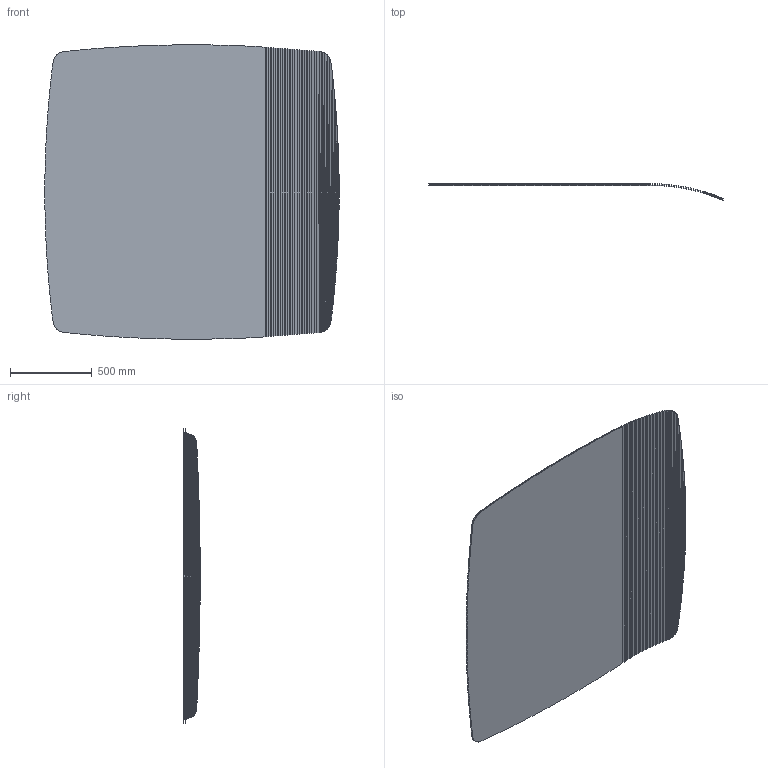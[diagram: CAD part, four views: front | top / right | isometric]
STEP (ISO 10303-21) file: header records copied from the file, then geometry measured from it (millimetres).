
FILE_DESCRIPTION (( 'STEP AP203' ), '1' );
FILE_NAME ('KRT02_Kirty_180x180.STEP', '2024-08-06T07:25:31', ( '' ), ( '' ), 'SwSTEP 2.0', 'SolidWorks 2022', '' );
FILE_SCHEMA (( 'CONFIG_CONTROL_DESIGN' ));
Length unit declared in the file: millimetre
Products named in the file (4): 3dgeom-3; KRT02_Kirty_180x180; 3dgeom-5; 3dgeom-4
Assembly tree (3 placements, depth 2):
  KRT02_Kirty_180x180
    3dgeom-3
    3dgeom-4
    3dgeom-5
Bounding box: 1800.03 x 100.06 x 1800.01 mm (x, y, z)
Surface area: 6249562 mm2 (no closed solid volume)
Topology: 0 solids, 5 shells, 395 faces, 1114 edges, 724 vertices
Faces by surface type: plane 395
Entity records: 12116 total; most frequent: CARTESIAN_POINT 2239, DIRECTION 1916, ORIENTED_EDGE 1506, VECTOR 1114, LINE 1114, EDGE_CURVE 1114, VERTEX_POINT 724, AXIS2_PLACEMENT_3D 401
